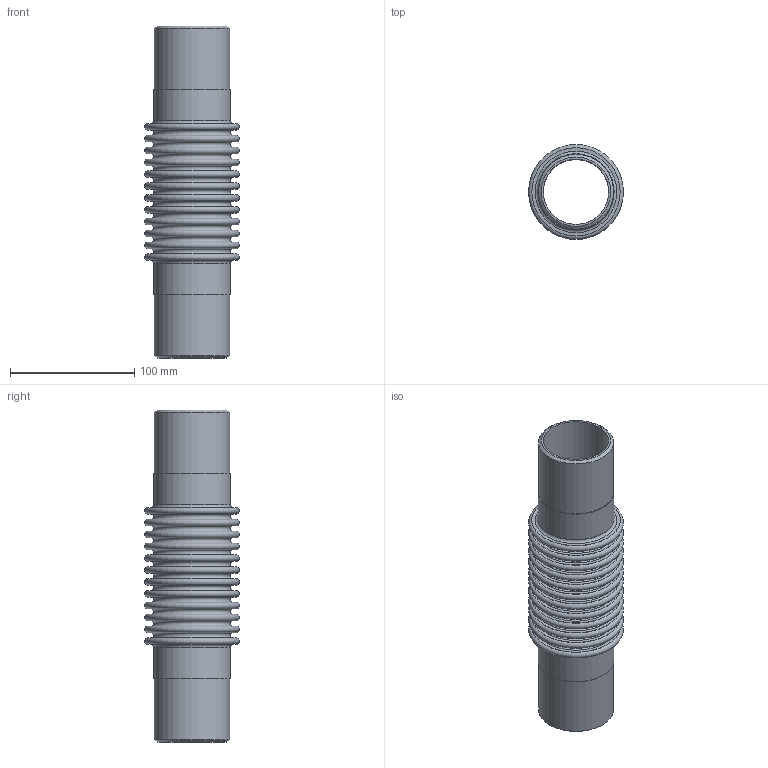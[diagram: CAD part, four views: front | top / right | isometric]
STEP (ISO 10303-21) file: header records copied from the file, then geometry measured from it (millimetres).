
FILE_DESCRIPTION(/* description */ ('EXPANSION JOINT,SINGLE, WELD ENDS,4 INCH NOMINAL'),/* implementation_level */ '2;1');
FILE_NAME(/* name */ 'ASSEMBLY US-2-12-85L.stp',/* time_stamp */ '2026-07-28T15:36:36-05:00',/* author */ ('jorgef'),/* organization */ (''),/* preprocessor_version */ 'ST-DEVELOPER v20.1',/* originating_system */ 'Autodesk Inventor 2026',/* authorisation */ '');
FILE_SCHEMA (('AUTOMOTIVE_DESIGN { 1 0 10303 214 3 1 1 }'));
Length unit declared in the file: inch
Products named in the file (3): ASSEMBLY  US-2-12-85L; STOCK BELLOW - US-2-12-85L; PIPE- US-2-12-85L
Assembly tree (3 placements, depth 2):
  ASSEMBLY  US-2-12-85L
    STOCK BELLOW - US-2-12-85L
    PIPE- US-2-12-85L  x2
Bounding box: 76.2 x 76.2 x 266.7 mm (x, y, z)
Volume: 133319.3 mm3; surface area: 181244.3 mm2
Topology: 5 solids, 5 shells, 118 faces, 180 edges, 121 vertices
Faces by surface type: plane 58, torus 50, cylinder 8, cone 2
Full cylindrical faces by diameter (mm): 52.502 x2, 60.325 x4, 61.239 x2
Entity records: 2769 total; most frequent: DIRECTION 573, CARTESIAN_POINT 405, ORIENTED_EDGE 342, AXIS2_PLACEMENT_3D 283, EDGE_CURVE 171, EDGE_LOOP 169, CIRCLE 164, VERTEX_POINT 114
